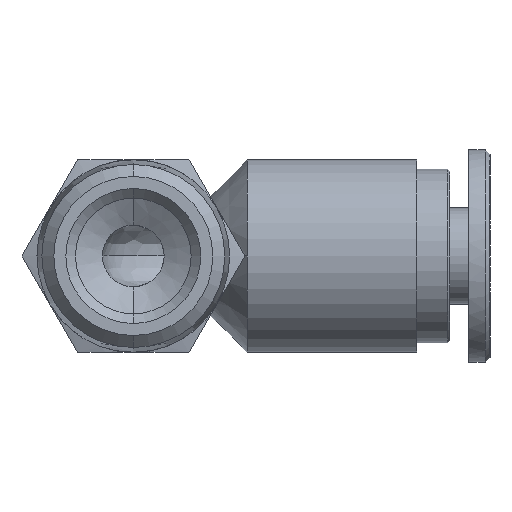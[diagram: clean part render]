
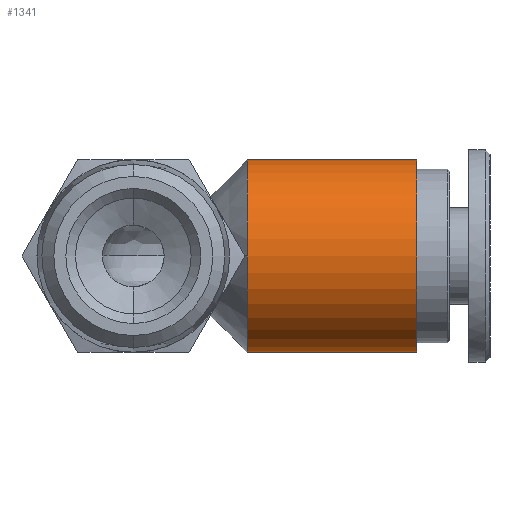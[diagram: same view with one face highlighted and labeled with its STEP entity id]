
A CAD part, front view. The second image highlights one B-rep face of the part: STEP entity #1341.
In plain terms, the highlighted cylindrical face has radius 5 mm (diameter 10 mm), a partial arc.
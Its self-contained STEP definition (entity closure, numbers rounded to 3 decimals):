
#131 = AXIS2_PLACEMENT_3D ( 'NONE', #1305, #924, #1592 ) ;
#133 = EDGE_LOOP ( 'NONE', ( #3675, #3304, #3325, #2047, #3438 ) ) ;
#148 = LINE ( 'NONE', #780, #4117 ) ;
#208 = AXIS2_PLACEMENT_3D ( 'NONE', #610, #1587, #2233 ) ;
#283 = EDGE_CURVE ( 'NONE', #2744, #1369, #2078, .T. ) ;
#328 = CYLINDRICAL_SURFACE ( 'NONE', #3775, 5. ) ;
#341 = EDGE_CURVE ( 'NONE', #4247, #3899, #603, .T. ) ;
#387 = CARTESIAN_POINT ( 'NONE',  ( 14.7, 16.5, 0. ) ) ;
#399 = DIRECTION ( 'NONE',  ( 0., 0., 1. ) ) ;
#453 = DIRECTION ( 'NONE',  ( -1., 0., 0. ) ) ;
#603 = CIRCLE ( 'NONE', #131, 5. ) ;
#610 = CARTESIAN_POINT ( 'NONE',  ( 5.9, 16.5, 0. ) ) ;
#738 = CARTESIAN_POINT ( 'NONE',  ( 5.9, 11.5, 0. ) ) ;
#780 = CARTESIAN_POINT ( 'NONE',  ( -0.433, 16.5, -5. ) ) ;
#924 = DIRECTION ( 'NONE',  ( 1., 0., 0. ) ) ;
#977 = EDGE_CURVE ( 'NONE', #2744, #3899, #148, .T. ) ;
#1064 = EDGE_CURVE ( 'NONE', #2765, #4247, #2509, .T. ) ;
#1305 = CARTESIAN_POINT ( 'NONE',  ( 5.9, 16.5, 0. ) ) ;
#1341 = ADVANCED_FACE ( 'NONE', ( #3630 ), #328, .T. ) ;
#1369 = VERTEX_POINT ( 'NONE', #3980 ) ;
#1551 = CARTESIAN_POINT ( 'NONE',  ( 14.7, 16.5, -5. ) ) ;
#1587 = DIRECTION ( 'NONE',  ( 1., 0., 0. ) ) ;
#1592 = DIRECTION ( 'NONE',  ( 0., 0., 1. ) ) ;
#1893 = LINE ( 'NONE', #3143, #3791 ) ;
#1938 = EDGE_CURVE ( 'NONE', #1369, #2765, #1893, .T. ) ;
#1957 = DIRECTION ( 'NONE',  ( -1., 0., 0. ) ) ;
#2047 = ORIENTED_EDGE ( 'NONE', *, *, #1064, .T. ) ;
#2078 = CIRCLE ( 'NONE', #3475, 5. ) ;
#2146 = DIRECTION ( 'NONE',  ( -1., 0., 0. ) ) ;
#2233 = DIRECTION ( 'NONE',  ( 0., 0., 1. ) ) ;
#2324 = DIRECTION ( 'NONE',  ( -1., 0., 0. ) ) ;
#2509 = CIRCLE ( 'NONE', #208, 5. ) ;
#2692 = CARTESIAN_POINT ( 'NONE',  ( -0.433, 16.5, 0. ) ) ;
#2744 = VERTEX_POINT ( 'NONE', #1551 ) ;
#2765 = VERTEX_POINT ( 'NONE', #3545 ) ;
#3143 = CARTESIAN_POINT ( 'NONE',  ( -0.433, 16.5, 5. ) ) ;
#3245 = DIRECTION ( 'NONE',  ( 0., 0., 1. ) ) ;
#3304 = ORIENTED_EDGE ( 'NONE', *, *, #283, .T. ) ;
#3325 = ORIENTED_EDGE ( 'NONE', *, *, #1938, .T. ) ;
#3438 = ORIENTED_EDGE ( 'NONE', *, *, #341, .T. ) ;
#3475 = AXIS2_PLACEMENT_3D ( 'NONE', #387, #2324, #3245 ) ;
#3545 = CARTESIAN_POINT ( 'NONE',  ( 5.9, 16.5, 5. ) ) ;
#3630 = FACE_OUTER_BOUND ( 'NONE', #133, .T. ) ;
#3675 = ORIENTED_EDGE ( 'NONE', *, *, #977, .F. ) ;
#3775 = AXIS2_PLACEMENT_3D ( 'NONE', #2692, #1957, #399 ) ;
#3791 = VECTOR ( 'NONE', #2146, 1000. ) ;
#3899 = VERTEX_POINT ( 'NONE', #3963 ) ;
#3963 = CARTESIAN_POINT ( 'NONE',  ( 5.9, 16.5, -5. ) ) ;
#3980 = CARTESIAN_POINT ( 'NONE',  ( 14.7, 16.5, 5. ) ) ;
#4117 = VECTOR ( 'NONE', #453, 1000. ) ;
#4247 = VERTEX_POINT ( 'NONE', #738 ) ;
